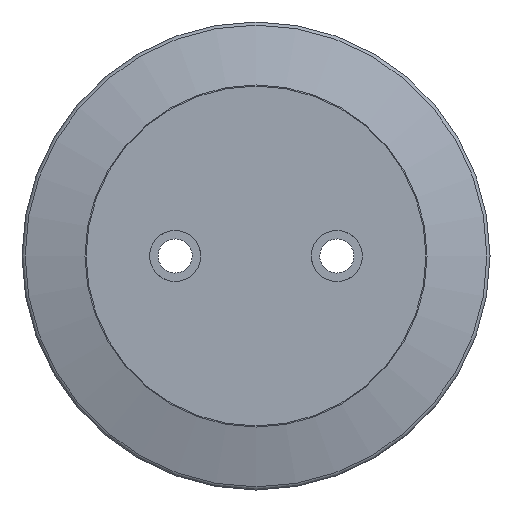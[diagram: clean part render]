
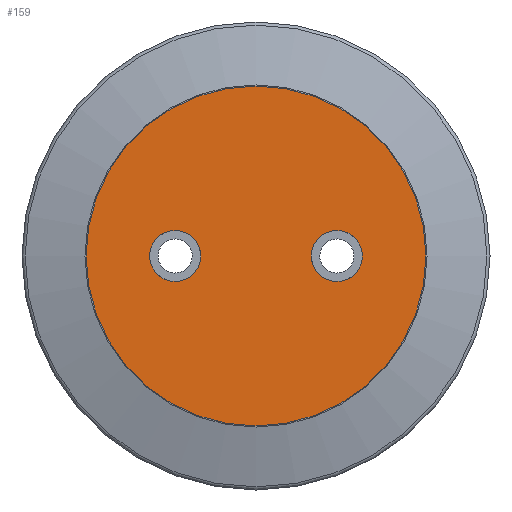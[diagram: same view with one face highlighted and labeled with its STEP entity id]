
A CAD part, left-side view. The second image highlights one B-rep face of the part: STEP entity #159.
In plain terms, the highlighted planar face has unit normal (-1, 0, 0).
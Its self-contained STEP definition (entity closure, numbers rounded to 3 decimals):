
#159 = ADVANCED_FACE( '', ( #295, #296, #297 ), #298, .F. );
#295 = FACE_OUTER_BOUND( '', #409, .T. );
#296 = FACE_BOUND( '', #410, .T. );
#297 = FACE_BOUND( '', #411, .T. );
#298 = PLANE( '', #412 );
#409 = EDGE_LOOP( '', ( #517 ) );
#410 = EDGE_LOOP( '', ( #518 ) );
#411 = EDGE_LOOP( '', ( #519 ) );
#412 = AXIS2_PLACEMENT_3D( '', #520, #521, #522 );
#517 = ORIENTED_EDGE( '', *, *, #565, .T. );
#518 = ORIENTED_EDGE( '', *, *, #551, .F. );
#519 = ORIENTED_EDGE( '', *, *, #545, .F. );
#520 = CARTESIAN_POINT( '', ( -5., 0., 20.036 ) );
#521 = DIRECTION( '', ( 1., 0., 0. ) );
#522 = DIRECTION( '', ( 0., 1., 0. ) );
#545 = EDGE_CURVE( '', #586, #586, #587, .T. );
#551 = EDGE_CURVE( '', #596, #596, #597, .T. );
#565 = EDGE_CURVE( '', #617, #617, #618, .T. );
#586 = VERTEX_POINT( '', #642 );
#587 = CIRCLE( '', #643, 3. );
#596 = VERTEX_POINT( '', #652 );
#597 = CIRCLE( '', #653, 3. );
#617 = VERTEX_POINT( '', #673 );
#618 = CIRCLE( '', #674, 19.97 );
#642 = CARTESIAN_POINT( '', ( -5., -9.5, -3. ) );
#643 = AXIS2_PLACEMENT_3D( '', #699, #700, #701 );
#652 = CARTESIAN_POINT( '', ( -5., 9.5, -3. ) );
#653 = AXIS2_PLACEMENT_3D( '', #711, #712, #713 );
#673 = CARTESIAN_POINT( '', ( -5., 0., -19.97 ) );
#674 = AXIS2_PLACEMENT_3D( '', #732, #733, #734 );
#699 = CARTESIAN_POINT( '', ( -5., -9.5, 0. ) );
#700 = DIRECTION( '', ( -1., 0., 0. ) );
#701 = DIRECTION( '', ( 0., 0., -1. ) );
#711 = CARTESIAN_POINT( '', ( -5., 9.5, 0. ) );
#712 = DIRECTION( '', ( -1., 0., 0. ) );
#713 = DIRECTION( '', ( 0., 0., -1. ) );
#732 = CARTESIAN_POINT( '', ( -5., 0., 0. ) );
#733 = DIRECTION( '', ( -1., 0., 0. ) );
#734 = DIRECTION( '', ( 0., 0., -1. ) );
